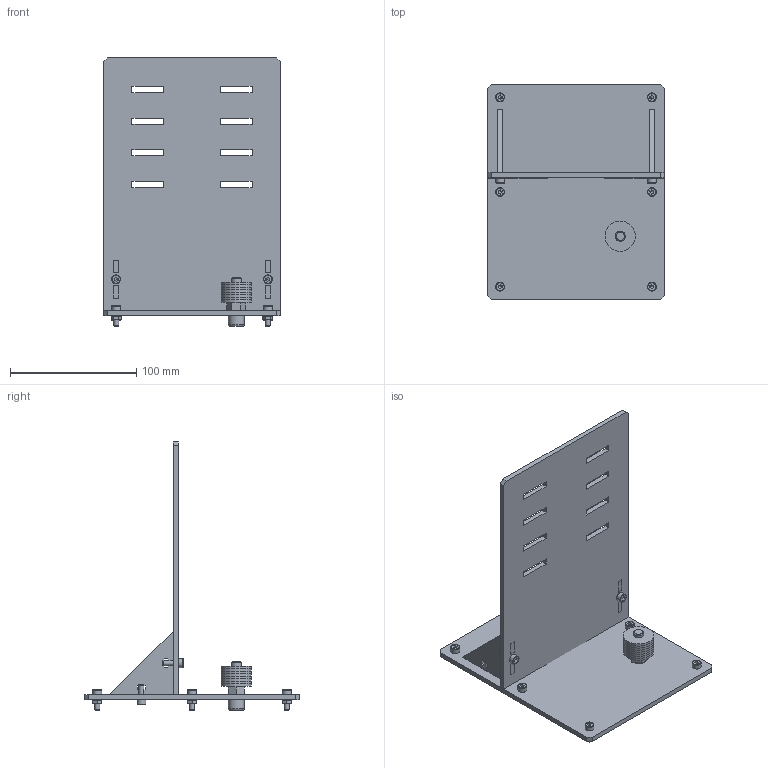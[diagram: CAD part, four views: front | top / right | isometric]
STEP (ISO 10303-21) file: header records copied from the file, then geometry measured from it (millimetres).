
FILE_DESCRIPTION(/* description */ ('STEP AP242 Edition 2','CAx-IF Rec.Pracs.---Representation and Presentation of Product Manufacturing Information (PMI)---4.0---2014-10-13','CAx-IF Rec.Pracs.---3D Tessellated Geometry---0.4---2014-09-14','2;1','CAx-IF Rec.Pracs.---User Defined Attributes---1.5---2016-08-15'),/* implementation_level */ '2;1');
FILE_NAME(/* name */ '6a982c848c9144ae188e0f31',/* time_stamp */ '2026-09-02T14:02:45Z',/* author */ (''),/* organization */ (''),/* preprocessor_version */ 'ST-DEVELOPER v20',/* originating_system */ 'ONSHAPE BY PTC INC, 1.220',/* authorisation */ ' ');
FILE_SCHEMA (('AP242_MANAGED_MODEL_BASED_3D_ENGINEERING_MIM_LF { 1 0 10303 442 3 1 4 }'));
Length unit declared in the file: metre
Products named in the file (9): Assembly 1; Plain washer large grade A M8; Hex socket head cap screw M4x0.70 x 12; Default; Hex nut grade A & B M4x0.7; Hex socket head cap screw M8x1.25 x 30; Hex nut grade A & B M8x1.25
Assembly tree (30 placements, depth 2):
  Assembly 1
    Plain washer large grade A M8  x8
    Hex socket head cap screw M4x0.70 x 12  x10
    Default
    Default  x2
    Hex nut grade A & B M4x0.7  x6
    Hex socket head cap screw M8x1.25 x 30
    Default
    Hex nut grade A & B M8x1.25
Bounding box: 140 x 170 x 212 mm (x, y, z)
Volume: 224924 mm3; surface area: 131404 mm2
Topology: 30 solids, 30 shells, 652 faces, 1523 edges, 942 vertices
Faces by surface type: plane 467, cone 89, cylinder 63, torus 33
Full cylindrical faces by diameter (mm): 3.242 x6, 4 x20, 6.647 x1, 7 x16, 7.4 x8, 8 x2, 13 x2, 24 x8
Entity records: 7867 total; most frequent: CARTESIAN_POINT 1378, DIRECTION 1241, ORIENTED_EDGE 1218, EDGE_CURVE 609, LINE 495, VECTOR 495, VERTEX_POINT 414, AXIS2_PLACEMENT_3D 373
